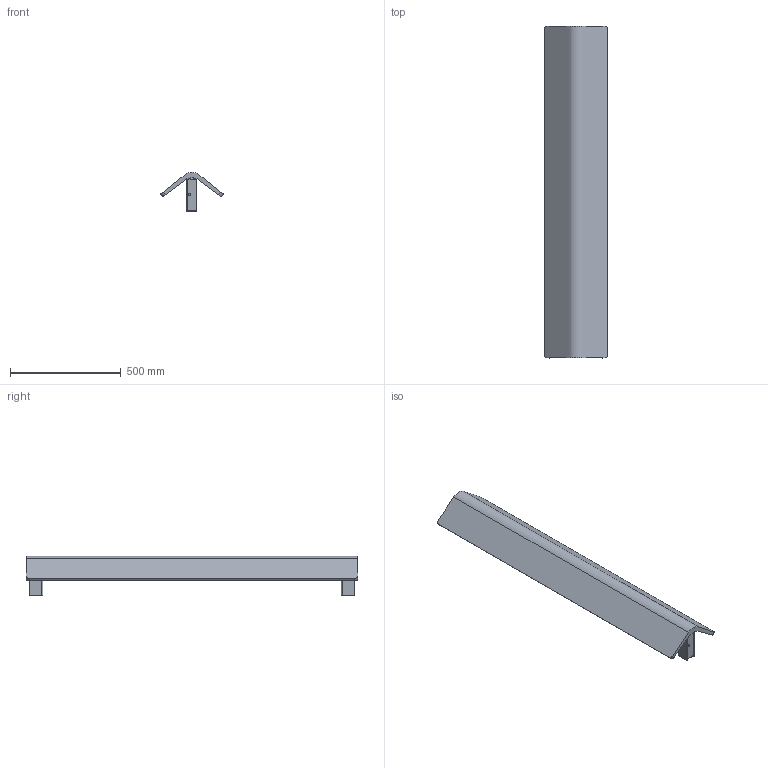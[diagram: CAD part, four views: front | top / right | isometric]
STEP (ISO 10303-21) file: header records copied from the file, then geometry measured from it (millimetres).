
FILE_DESCRIPTION(/* description */ (''),/* implementation_level */ '2;1');
FILE_NAME(/* name */ 'Vika wall vertical light.stp',/* time_stamp */ '2025-03-09T10:09:07+01:00',/* author */ ('ergr'),/* organization */ (''),/* preprocessor_version */ 'ST-DEVELOPER v19.2',/* originating_system */ 'Autodesk Inventor 2023',/* authorisation */ '');
FILE_SCHEMA (('AUTOMOTIVE_DESIGN { 1 0 10303 214 3 1 1 }'));
Length unit declared in the file: millimetre
Products named in the file (1): 117126_Simplify_1
Bounding box: 283.34 x 1500 x 178.7 mm (x, y, z)
Volume: 10421602.1 mm3; surface area: 1331179 mm2
Topology: 1 solids, 1 shells, 151 faces, 438 edges, 280 vertices
Faces by surface type: plane 109, cylinder 39, torus 2, cone 1
Full cylindrical faces by diameter (mm): 26.2 x1, 30 x3, 32 x1
Entity records: 5332 total; most frequent: CARTESIAN_POINT 1000, ORIENTED_EDGE 876, DIRECTION 855, EDGE_CURVE 438, LINE 293, VECTOR 293, AXIS2_PLACEMENT_3D 281, VERTEX_POINT 280
